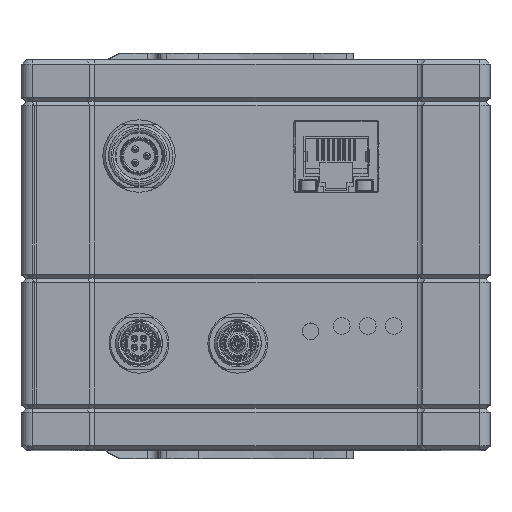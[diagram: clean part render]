
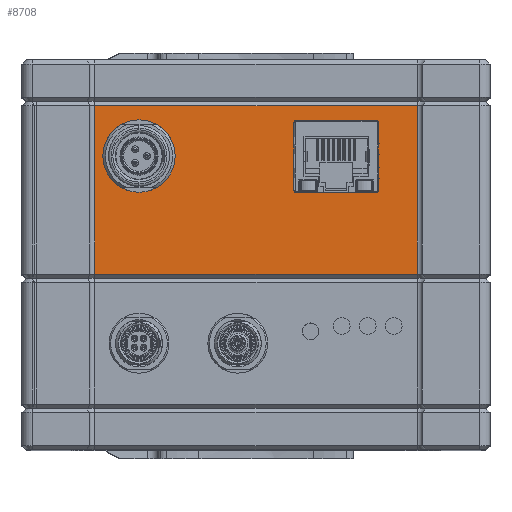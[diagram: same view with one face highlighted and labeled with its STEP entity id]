
A CAD part, top view. The second image highlights one B-rep face of the part: STEP entity #8708.
In plain terms, the highlighted planar face has unit normal (0, 0, 1).
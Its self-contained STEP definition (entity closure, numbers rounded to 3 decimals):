
#3297=CARTESIAN_POINT('',(-25.183,20.4,61.5));
#3298=DIRECTION('',(0.,0.,-1.));
#3299=DIRECTION('',(0.,-1.,0.));
#3300=AXIS2_PLACEMENT_3D('',#3297,#3298,#3299);
#3334=CARTESIAN_POINT('',(-19.817,20.4,61.5));
#3335=DIRECTION('',(0.,0.,-1.));
#3336=DIRECTION('',(0.654,-0.756,0.));
#3337=AXIS2_PLACEMENT_3D('',#3334,#3335,#3336);
#3372=CARTESIAN_POINT('',(-19.817,26.6,61.5));
#3373=DIRECTION('',(0.,0.,-1.));
#3374=DIRECTION('',(0.,1.,0.));
#3375=AXIS2_PLACEMENT_3D('',#3372,#3373,#3374);
#3409=CARTESIAN_POINT('',(-25.183,26.6,61.5));
#3410=DIRECTION('',(0.,0.,-1.));
#3411=DIRECTION('',(-0.654,0.756,0.));
#3412=AXIS2_PLACEMENT_3D('',#3409,#3410,#3411);
#3425=DIRECTION('',(-1.,0.,0.));
#3426=VECTOR('',#3425,62.);
#3427=CARTESIAN_POINT('',(31.,33.2,61.5));
#3428=LINE('',#3427,#3426);
#3432=DIRECTION('',(0.,1.,0.));
#3433=VECTOR('',#3432,32.4);
#3434=CARTESIAN_POINT('',(31.,0.8,61.5));
#3435=LINE('',#3434,#3433);
#3439=DIRECTION('',(1.,0.,0.));
#3440=VECTOR('',#3439,62.);
#3441=CARTESIAN_POINT('',(-31.,0.8,61.5));
#3442=LINE('',#3441,#3440);
#3446=DIRECTION('',(0.,1.,0.));
#3447=VECTOR('',#3446,32.4);
#3448=CARTESIAN_POINT('',(-31.,0.8,61.5));
#3449=LINE('',#3448,#3447);
#3453=DIRECTION('',(-1.,0.,0.));
#3454=VECTOR('',#3453,5.367);
#3455=CARTESIAN_POINT('',(-19.817,28.6,61.5));
#3456=LINE('',#3455,#3454);
#3460=CARTESIAN_POINT('',(-22.5,23.5,61.5));
#3461=DIRECTION('',(0.,0.,1.));
#3462=DIRECTION('',(-0.654,0.756,0.));
#3463=AXIS2_PLACEMENT_3D('',#3460,#3461,#3462);
#3468=DIRECTION('',(1.,0.,0.));
#3469=VECTOR('',#3468,5.367);
#3470=CARTESIAN_POINT('',(-25.183,18.4,61.5));
#3471=LINE('',#3470,#3469);
#3475=CARTESIAN_POINT('',(-22.5,23.5,61.5));
#3476=DIRECTION('',(0.,0.,1.));
#3477=DIRECTION('',(0.654,-0.756,0.));
#3478=AXIS2_PLACEMENT_3D('',#3475,#3476,#3477);
#3483=DIRECTION('',(0.,-1.,0.));
#3484=VECTOR('',#3483,13.);
#3485=CARTESIAN_POINT('',(7.3,29.9,61.5));
#3486=LINE('',#3485,#3484);
#3490=DIRECTION('',(1.,0.,0.));
#3491=VECTOR('',#3490,15.2);
#3492=CARTESIAN_POINT('',(7.8,16.4,61.5));
#3493=LINE('',#3492,#3491);
#3497=DIRECTION('',(0.,1.,0.));
#3498=VECTOR('',#3497,13.);
#3499=CARTESIAN_POINT('',(23.5,16.9,61.5));
#3500=LINE('',#3499,#3498);
#3504=DIRECTION('',(-1.,0.,0.));
#3505=VECTOR('',#3504,15.2);
#3506=CARTESIAN_POINT('',(23.,30.4,61.5));
#3507=LINE('',#3506,#3505);
#4773=CARTESIAN_POINT('',(7.8,16.9,61.5));
#4774=DIRECTION('',(0.,0.,-1.));
#4775=DIRECTION('',(0.,-1.,0.));
#4776=AXIS2_PLACEMENT_3D('',#4773,#4774,#4775);
#4808=CARTESIAN_POINT('',(23.,16.9,61.5));
#4809=DIRECTION('',(0.,0.,-1.));
#4810=DIRECTION('',(1.,0.,0.));
#4811=AXIS2_PLACEMENT_3D('',#4808,#4809,#4810);
#4843=CARTESIAN_POINT('',(23.,29.9,61.5));
#4844=DIRECTION('',(0.,0.,-1.));
#4845=DIRECTION('',(0.,1.,0.));
#4846=AXIS2_PLACEMENT_3D('',#4843,#4844,#4845);
#4878=CARTESIAN_POINT('',(7.8,29.9,61.5));
#4879=DIRECTION('',(0.,0.,-1.));
#4880=DIRECTION('',(-1.,0.,0.));
#4881=AXIS2_PLACEMENT_3D('',#4878,#4879,#4880);
#6067=CARTESIAN_POINT('',(-31.,33.2,61.5));
#6069=VERTEX_POINT('',#6067);
#6071=CARTESIAN_POINT('',(31.,33.2,61.5));
#6072=VERTEX_POINT('',#6071);
#6143=CARTESIAN_POINT('',(31.,0.8,61.5));
#6144=VERTEX_POINT('',#6143);
#6145=CARTESIAN_POINT('',(-31.,0.8,61.5));
#6146=VERTEX_POINT('',#6145);
#6294=CARTESIAN_POINT('',(-25.183,18.4,61.5));
#6296=VERTEX_POINT('',#6294);
#6298=CARTESIAN_POINT('',(-26.492,18.888,61.5));
#6300=VERTEX_POINT('',#6298);
#6302=CARTESIAN_POINT('',(-26.492,28.112,61.5));
#6304=VERTEX_POINT('',#6302);
#6306=CARTESIAN_POINT('',(-25.183,28.6,61.5));
#6308=VERTEX_POINT('',#6306);
#6310=CARTESIAN_POINT('',(-19.817,28.6,61.5));
#6312=VERTEX_POINT('',#6310);
#6314=CARTESIAN_POINT('',(-18.508,28.112,61.5));
#6316=VERTEX_POINT('',#6314);
#6318=CARTESIAN_POINT('',(-18.508,18.888,61.5));
#6320=VERTEX_POINT('',#6318);
#6322=CARTESIAN_POINT('',(-19.817,18.4,61.5));
#6324=VERTEX_POINT('',#6322);
#6326=CARTESIAN_POINT('',(23.5,16.9,61.5));
#6328=VERTEX_POINT('',#6326);
#6330=CARTESIAN_POINT('',(23.,16.4,61.5));
#6332=VERTEX_POINT('',#6330);
#6334=CARTESIAN_POINT('',(7.8,16.4,61.5));
#6336=VERTEX_POINT('',#6334);
#6338=CARTESIAN_POINT('',(7.3,16.9,61.5));
#6340=VERTEX_POINT('',#6338);
#6342=CARTESIAN_POINT('',(7.3,29.9,61.5));
#6344=VERTEX_POINT('',#6342);
#6346=CARTESIAN_POINT('',(7.8,30.4,61.5));
#6348=VERTEX_POINT('',#6346);
#6350=CARTESIAN_POINT('',(23.,30.4,61.5));
#6352=VERTEX_POINT('',#6350);
#6354=CARTESIAN_POINT('',(23.5,29.9,61.5));
#6356=VERTEX_POINT('',#6354);
#8665=CARTESIAN_POINT('',(-32.,0.,61.5));
#8666=DIRECTION('',(0.,0.,-1.));
#8667=DIRECTION('',(1.,0.,0.));
#8668=AXIS2_PLACEMENT_3D('',#8665,#8666,#8667);
#8669=PLANE('',#8668);
#8671=ORIENTED_EDGE('',*,*,#8670,.F.);
#8673=ORIENTED_EDGE('',*,*,#8672,.F.);
#8675=ORIENTED_EDGE('',*,*,#8674,.F.);
#8677=ORIENTED_EDGE('',*,*,#8676,.T.);
#8678=EDGE_LOOP('',(#8671,#8673,#8675,#8677));
#8679=FACE_OUTER_BOUND('',#8678,.F.);
#8680=ORIENTED_EDGE('',*,*,#8645,.T.);
#8681=ORIENTED_EDGE('',*,*,#8658,.F.);
#8682=ORIENTED_EDGE('',*,*,#8560,.T.);
#8683=ORIENTED_EDGE('',*,*,#8575,.F.);
#8684=ORIENTED_EDGE('',*,*,#8591,.T.);
#8685=ORIENTED_EDGE('',*,*,#8603,.F.);
#8686=ORIENTED_EDGE('',*,*,#8617,.T.);
#8687=ORIENTED_EDGE('',*,*,#8631,.F.);
#8688=EDGE_LOOP('',(#8680,#8681,#8682,#8683,#8684,#8685,#8686,#8687));
#8689=FACE_BOUND('',#8688,.F.);
#8691=ORIENTED_EDGE('',*,*,#8690,.T.);
#8693=ORIENTED_EDGE('',*,*,#8692,.F.);
#8695=ORIENTED_EDGE('',*,*,#8694,.T.);
#8697=ORIENTED_EDGE('',*,*,#8696,.F.);
#8699=ORIENTED_EDGE('',*,*,#8698,.T.);
#8701=ORIENTED_EDGE('',*,*,#8700,.F.);
#8703=ORIENTED_EDGE('',*,*,#8702,.T.);
#8705=ORIENTED_EDGE('',*,*,#8704,.F.);
#8706=EDGE_LOOP('',(#8691,#8693,#8695,#8697,#8699,#8701,#8703,#8705));
#8707=FACE_BOUND('',#8706,.F.);
#3301=CIRCLE('',#3300,2.);
#3338=CIRCLE('',#3337,2.);
#3376=CIRCLE('',#3375,2.);
#3413=CIRCLE('',#3412,2.);
#3464=CIRCLE('',#3463,6.1);
#3479=CIRCLE('',#3478,6.1);
#4777=CIRCLE('',#4776,0.5);
#4812=CIRCLE('',#4811,0.5);
#4847=CIRCLE('',#4846,0.5);
#4882=CIRCLE('',#4881,0.5);
#8560=EDGE_CURVE('',#6304,#6300,#3464,.T.);
#8575=EDGE_CURVE('',#6296,#6300,#3301,.T.);
#8591=EDGE_CURVE('',#6296,#6324,#3471,.T.);
#8603=EDGE_CURVE('',#6320,#6324,#3338,.T.);
#8617=EDGE_CURVE('',#6320,#6316,#3479,.T.);
#8631=EDGE_CURVE('',#6312,#6316,#3376,.T.);
#8645=EDGE_CURVE('',#6312,#6308,#3456,.T.);
#8658=EDGE_CURVE('',#6304,#6308,#3413,.T.);
#8670=EDGE_CURVE('',#6072,#6069,#3428,.T.);
#8672=EDGE_CURVE('',#6144,#6072,#3435,.T.);
#8674=EDGE_CURVE('',#6146,#6144,#3442,.T.);
#8676=EDGE_CURVE('',#6146,#6069,#3449,.T.);
#8690=EDGE_CURVE('',#6344,#6340,#3486,.T.);
#8692=EDGE_CURVE('',#6336,#6340,#4777,.T.);
#8694=EDGE_CURVE('',#6336,#6332,#3493,.T.);
#8696=EDGE_CURVE('',#6328,#6332,#4812,.T.);
#8698=EDGE_CURVE('',#6328,#6356,#3500,.T.);
#8700=EDGE_CURVE('',#6352,#6356,#4847,.T.);
#8702=EDGE_CURVE('',#6352,#6348,#3507,.T.);
#8704=EDGE_CURVE('',#6344,#6348,#4882,.T.);
#8708=ADVANCED_FACE('',(#8679,#8689,#8707),#8669,.F.);
